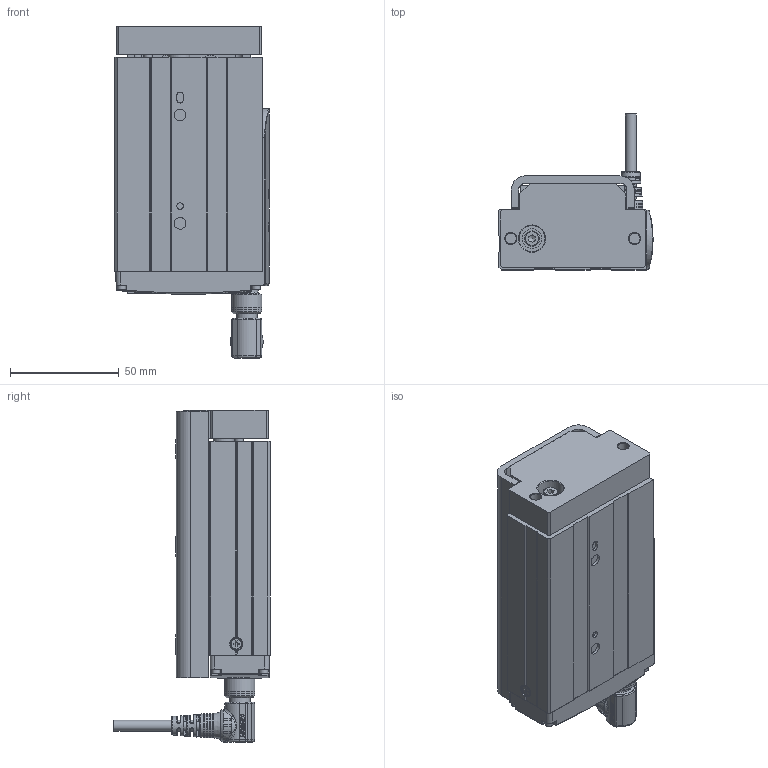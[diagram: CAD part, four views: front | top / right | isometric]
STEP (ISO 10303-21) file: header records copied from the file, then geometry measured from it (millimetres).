
FILE_DESCRIPTION(/* description */ ('STEP AP203'),/* implementation_level */ '2;1');
FILE_NAME(/* name */ 'D:\暫\2025.02.06 CSG 3D\CSG25\CSG25-S50-WW.stp',/* time_stamp */ '2025-02-08T09:51:06+08:00',/* author */ ('T10033'),/* organization */ (''),/* preprocessor_version */ 'ST-DEVELOPER v18.1',/* originating_system */ 'Autodesk Inventor 2020',/* authorisation */ '');
FILE_SCHEMA (('CONFIG_CONTROL_DESIGN'));
Products named in the file (20): CSG25-50行程-180接頭-完整組合; 22024-000496; plain washer 10673 type snl_iso_ISO 10673-4.55-S; 22035-000061(G4ªo¯]); countersunk flat head cross recess screw_iso_ISO 7046-1 - M2.5 x 4 - 
Z - 4N; plain washer 10673 type snl_iso_ISO 10673-2.75-S; socket head cap screw_iso_ISO 4762 M2.5 x 5 - 5N; ©T©wªO-·¥­­¾×ª
O4-M2¤ú; socket head cap screw_iso_ISO 4762 M2.5 x 6 - 6N; socket head cap screw_iso_ISO 4762 M2.5 x 8 - 8N; ¶ì½¦ºÝ»-L¼Ë¦¡
(TOYO); socket head cap screw_iso_ISO 4762 M2 x 12 - 12N; M12 -14PIN  ªOºÝ-²Ä¤@ºØ
³W®æ; CSG25-50¥»Åé3ª©-ªo¤Õ
½Õ¾ã¨¤«×; 12003-000221-­×§ï; CSG25-Carriage-newtype; CNS 3932 - M 4 x 0.7 x 12; CNS 4558 - M5 x 0.8 x 12; Solid1-2; M12-14PIN 線端90度接頭-05中繼線
Assembly tree (31 placements, depth 2):
  CSG25-50行程-180接頭-完整組合
    22024-000496
    plain washer 10673 type snl_iso_ISO 10673-4.55-S
    22035-000061(G4ªo¯])
    socket head cap screw_iso_ISO 4762 M2.5 x 8 - 8N  x8
    countersunk flat head cross recess screw_iso_ISO 7046-1 - M2.5 x 4 - 
Z - 4N
    plain washer 10673 type snl_iso_ISO 10673-2.75-S
    socket head cap screw_iso_ISO 4762 M2.5 x 5 - 5N
    ©T©wªO-·¥­­¾×ª
O4-M2¤ú
    socket head cap screw_iso_ISO 4762 M2.5 x 6 - 6N  x2
    ¶ì½¦ºÝ»-L¼Ë¦¡
(TOYO)
    socket head cap screw_iso_ISO 4762 M2 x 12 - 12N  x4
    M12 -14PIN  ªOºÝ-²Ä¤@ºØ
³W®æ
    CSG25-50¥»Åé3ª©-ªo¤Õ
½Õ¾ã¨¤«×
    12003-000221-­×§ï
    CSG25-Carriage-newtype
    CNS 3932 - M 4 x 0.7 x 12
    CNS 4558 - M5 x 0.8 x 12  x2
    Solid1-2
    M12-14PIN 線端90度接頭-05中繼線
Bounding box: 71 x 71.97 x 153 mm (x, y, z)
Volume: 272176 mm3; surface area: 80777.9 mm2
Topology: 45 solids, 54 shells, 2996 faces, 8239 edges, 5480 vertices
Faces by surface type: plane 1435, bspline 647, cylinder 500, cone 282, torus 125, sphere 7
Full cylindrical faces by diameter (mm): 0.6 x14, 0.65 x14, 1 x14, 1.6 x4, 2 x4, 2.05 x3, 2.5 x13, 2.75 x1, 2.9 x2, 3 x3, 3.8 x4, 4 x1, 4.134 x8, 4.5 x11, 4.55 x1, 4.7 x1, 4.95 x1, 5 x6, 5.2 x1, 5.3 x2, 5.4 x4, 5.5 x4, 6 x4, 7 x1, 8 x1, 8.9 x1, 9 x13, 9.5 x2, 9.6 x1, 10 x6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
Entity records: 115825 total; most frequent: CARTESIAN_POINT 44655, ORIENTED_EDGE 15199, DIRECTION 13363, EDGE_CURVE 7618, VERTEX_POINT 5093, AXIS2_PLACEMENT_3D 4682, LINE 3999, VECTOR 3999
